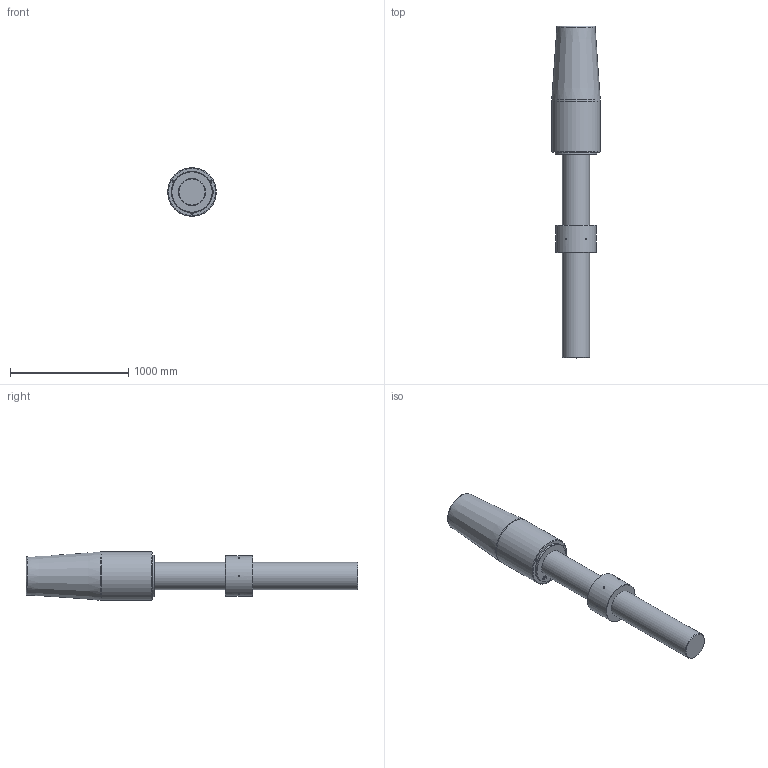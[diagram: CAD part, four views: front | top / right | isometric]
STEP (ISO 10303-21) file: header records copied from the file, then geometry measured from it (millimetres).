
FILE_DESCRIPTION(/* description */ (''),/* implementation_level */ '2;1');
FILE_NAME(/* name */ 'D:\Clienti\Redaelli (inventor)\CYB\STEP\Arrangement\CYB140 52 061 0.stp',/* time_stamp */ '2021-05-08T15:02:11+02:00',/* author */ ('fabri'),/* organization */ (''),/* preprocessor_version */ 'ST-DEVELOPER v16.13',/* originating_system */ 'Autodesk Inventor 2018',/* authorisation */ '');
FILE_SCHEMA (('AUTOMOTIVE_DESIGN { 1 0 10303 214 3 1 1 }'));
Length unit declared in the file: millimetre
Products named in the file (5): CYB140 52 061 0; RNT052 41 051 0_ROD; RNT052 41 051 0_ROD_1; CCY021-51-061-0_BUSH; CCY021-51-061-0
Assembly tree (4 placements, depth 2):
  CYB140 52 061 0
    RNT052 41 051 0_ROD
    RNT052 41 051 0_ROD_1
    CCY021-51-061-0_BUSH
    CCY021-51-061-0
Bounding box: 410 x 2805 x 410 mm (x, y, z)
Volume: 229851545.1 mm3; surface area: 4139168.4 mm2
Topology: 4 solids, 4 shells, 671 faces, 1788 edges, 1187 vertices
Faces by surface type: plane 345, bspline 288, cylinder 18, cone 16, torus 4
Full cylindrical faces by diameter (mm): 15 x6, 20.752 x3, 223.505 x2, 230 x1, 232 x1, 294 x1, 310 x1, 345 x1, 350 x1, 410 x1
Entity records: 22276 total; most frequent: CARTESIAN_POINT 7565, ORIENTED_EDGE 3478, DIRECTION 1979, EDGE_CURVE 1739, VERTEX_POINT 1177, LINE 1109, VECTOR 1109, EDGE_LOOP 776
